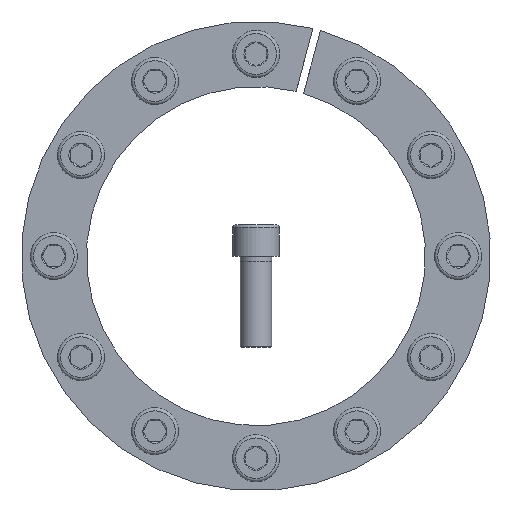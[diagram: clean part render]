
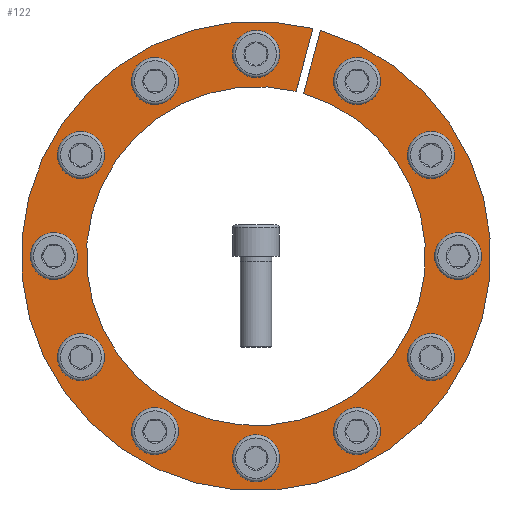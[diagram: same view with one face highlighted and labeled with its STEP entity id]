
A CAD part, front view. The second image highlights one B-rep face of the part: STEP entity #122.
In plain terms, the highlighted planar face has unit normal (0, -1, 0).
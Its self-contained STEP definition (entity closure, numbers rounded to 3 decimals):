
#122 = ADVANCED_FACE( '', ( #289, #290, #291, #292, #293, #294, #295, #296, #297, #298, #299, #300, #301 ), #302, .F. );
#289 = FACE_BOUND( '', #507, .T. );
#290 = FACE_BOUND( '', #508, .T. );
#291 = FACE_BOUND( '', #509, .T. );
#292 = FACE_BOUND( '', #510, .T. );
#293 = FACE_BOUND( '', #511, .T. );
#294 = FACE_BOUND( '', #512, .T. );
#295 = FACE_OUTER_BOUND( '', #513, .T. );
#296 = FACE_BOUND( '', #514, .T. );
#297 = FACE_BOUND( '', #515, .T. );
#298 = FACE_BOUND( '', #516, .T. );
#299 = FACE_BOUND( '', #517, .T. );
#300 = FACE_BOUND( '', #518, .T. );
#301 = FACE_BOUND( '', #519, .T. );
#302 = PLANE( '', #520 );
#507 = EDGE_LOOP( '', ( #826 ) );
#508 = EDGE_LOOP( '', ( #827 ) );
#509 = EDGE_LOOP( '', ( #828 ) );
#510 = EDGE_LOOP( '', ( #829 ) );
#511 = EDGE_LOOP( '', ( #830 ) );
#512 = EDGE_LOOP( '', ( #831 ) );
#513 = EDGE_LOOP( '', ( #832, #833, #834, #835 ) );
#514 = EDGE_LOOP( '', ( #836 ) );
#515 = EDGE_LOOP( '', ( #837 ) );
#516 = EDGE_LOOP( '', ( #838 ) );
#517 = EDGE_LOOP( '', ( #839 ) );
#518 = EDGE_LOOP( '', ( #840 ) );
#519 = EDGE_LOOP( '', ( #841 ) );
#520 = AXIS2_PLACEMENT_3D( '', #842, #843, #844 );
#826 = ORIENTED_EDGE( '', *, *, #1092, .T. );
#827 = ORIENTED_EDGE( '', *, *, #1059, .T. );
#828 = ORIENTED_EDGE( '', *, *, #1097, .T. );
#829 = ORIENTED_EDGE( '', *, *, #1046, .T. );
#830 = ORIENTED_EDGE( '', *, *, #1049, .T. );
#831 = ORIENTED_EDGE( '', *, *, #1041, .T. );
#832 = ORIENTED_EDGE( '', *, *, #1011, .F. );
#833 = ORIENTED_EDGE( '', *, *, #1098, .F. );
#834 = ORIENTED_EDGE( '', *, *, #1035, .T. );
#835 = ORIENTED_EDGE( '', *, *, #1086, .F. );
#836 = ORIENTED_EDGE( '', *, *, #1062, .T. );
#837 = ORIENTED_EDGE( '', *, *, #1099, .T. );
#838 = ORIENTED_EDGE( '', *, *, #1052, .T. );
#839 = ORIENTED_EDGE( '', *, *, #1100, .T. );
#840 = ORIENTED_EDGE( '', *, *, #1084, .T. );
#841 = ORIENTED_EDGE( '', *, *, #1101, .T. );
#842 = CARTESIAN_POINT( '', ( 0., 0., 90. ) );
#843 = DIRECTION( '', ( 0., 1., 0. ) );
#844 = DIRECTION( '', ( 0., 0., 1. ) );
#1011 = EDGE_CURVE( '', #1187, #1189, #1190, .T. );
#1035 = EDGE_CURVE( '', #1232, #1233, #1234, .T. );
#1041 = EDGE_CURVE( '', #1243, #1243, #1244, .T. );
#1046 = EDGE_CURVE( '', #1251, #1251, #1252, .T. );
#1049 = EDGE_CURVE( '', #1256, #1256, #1257, .T. );
#1052 = EDGE_CURVE( '', #1261, #1261, #1262, .T. );
#1059 = EDGE_CURVE( '', #1272, #1272, #1273, .T. );
#1062 = EDGE_CURVE( '', #1277, #1277, #1278, .T. );
#1084 = EDGE_CURVE( '', #1314, #1314, #1315, .T. );
#1086 = EDGE_CURVE( '', #1189, #1233, #1317, .T. );
#1092 = EDGE_CURVE( '', #1325, #1325, #1326, .T. );
#1097 = EDGE_CURVE( '', #1331, #1331, #1332, .T. );
#1098 = EDGE_CURVE( '', #1232, #1187, #1333, .T. );
#1099 = EDGE_CURVE( '', #1334, #1334, #1335, .T. );
#1100 = EDGE_CURVE( '', #1336, #1336, #1337, .T. );
#1101 = EDGE_CURVE( '', #1338, #1338, #1339, .T. );
#1187 = VERTEX_POINT( '', #1514 );
#1189 = VERTEX_POINT( '', #1517 );
#1190 = CIRCLE( '', #1518, 65. );
#1232 = VERTEX_POINT( '', #1565 );
#1233 = VERTEX_POINT( '', #1566 );
#1234 = CIRCLE( '', #1567, 90. );
#1243 = VERTEX_POINT( '', #1578 );
#1244 = CIRCLE( '', #1579, 6. );
#1251 = VERTEX_POINT( '', #1586 );
#1252 = CIRCLE( '', #1587, 6. );
#1256 = VERTEX_POINT( '', #1591 );
#1257 = CIRCLE( '', #1592, 6. );
#1261 = VERTEX_POINT( '', #1596 );
#1262 = CIRCLE( '', #1597, 6. );
#1272 = VERTEX_POINT( '', #1607 );
#1273 = CIRCLE( '', #1608, 6. );
#1277 = VERTEX_POINT( '', #1612 );
#1278 = CIRCLE( '', #1613, 6. );
#1314 = VERTEX_POINT( '', #1657 );
#1315 = CIRCLE( '', #1658, 6. );
#1317 = LINE( '', #1660, #1661 );
#1325 = VERTEX_POINT( '', #1674 );
#1326 = CIRCLE( '', #1675, 6. );
#1331 = VERTEX_POINT( '', #1681 );
#1332 = CIRCLE( '', #1682, 6. );
#1333 = LINE( '', #1683, #1684 );
#1334 = VERTEX_POINT( '', #1685 );
#1335 = CIRCLE( '', #1686, 6. );
#1336 = VERTEX_POINT( '', #1687 );
#1337 = CIRCLE( '', #1688, 6. );
#1338 = VERTEX_POINT( '', #1689 );
#1339 = CIRCLE( '', #1690, 6. );
#1514 = CARTESIAN_POINT( '', ( 15.37, 0., 63.157 ) );
#1517 = CARTESIAN_POINT( '', ( 18.268, 0., 62.38 ) );
#1518 = AXIS2_PLACEMENT_3D( '', #1759, #1760, #1761 );
#1565 = CARTESIAN_POINT( '', ( 21.842, 0., 87.309 ) );
#1566 = CARTESIAN_POINT( '', ( 24.739, 0., 86.533 ) );
#1567 = AXIS2_PLACEMENT_3D( '', #1812, #1813, #1814 );
#1578 = CARTESIAN_POINT( '', ( 6., 0., 77.5 ) );
#1579 = AXIS2_PLACEMENT_3D( '', #1823, #1824, #1825 );
#1586 = CARTESIAN_POINT( '', ( 64.117, 0., -43.946 ) );
#1587 = AXIS2_PLACEMENT_3D( '', #1832, #1833, #1834 );
#1591 = CARTESIAN_POINT( '', ( 70.117, 0., 33.554 ) );
#1592 = AXIS2_PLACEMENT_3D( '', #1838, #1839, #1840 );
#1596 = CARTESIAN_POINT( '', ( 33.554, 0., -70.117 ) );
#1597 = AXIS2_PLACEMENT_3D( '', #1844, #1845, #1846 );
#1607 = CARTESIAN_POINT( '', ( -70.117, 0., -33.554 ) );
#1608 = AXIS2_PLACEMENT_3D( '', #1856, #1857, #1858 );
#1612 = CARTESIAN_POINT( '', ( 43.946, 0., 64.117 ) );
#1613 = AXIS2_PLACEMENT_3D( '', #1862, #1863, #1864 );
#1657 = CARTESIAN_POINT( '', ( -77.5, 0., 6. ) );
#1658 = AXIS2_PLACEMENT_3D( '', #1903, #1904, #1905 );
#1660 = CARTESIAN_POINT( '', ( 18.268, 0., 62.38 ) );
#1661 = VECTOR( '', #1906, 1000. );
#1674 = CARTESIAN_POINT( '', ( -64.117, 0., 43.946 ) );
#1675 = AXIS2_PLACEMENT_3D( '', #1912, #1913, #1914 );
#1681 = CARTESIAN_POINT( '', ( -6., 0., -77.5 ) );
#1682 = AXIS2_PLACEMENT_3D( '', #1916, #1917, #1918 );
#1683 = CARTESIAN_POINT( '', ( 21.845, 0., 87.322 ) );
#1684 = VECTOR( '', #1919, 1000. );
#1685 = CARTESIAN_POINT( '', ( 77.5, 0., -6. ) );
#1686 = AXIS2_PLACEMENT_3D( '', #1920, #1921, #1922 );
#1687 = CARTESIAN_POINT( '', ( -43.946, 0., -64.117 ) );
#1688 = AXIS2_PLACEMENT_3D( '', #1923, #1924, #1925 );
#1689 = CARTESIAN_POINT( '', ( -33.554, 0., 70.117 ) );
#1690 = AXIS2_PLACEMENT_3D( '', #1926, #1927, #1928 );
#1759 = CARTESIAN_POINT( '', ( 0., 0., 0. ) );
#1760 = DIRECTION( '', ( 0., -1., 0. ) );
#1761 = DIRECTION( '', ( 0., 0., -1. ) );
#1812 = CARTESIAN_POINT( '', ( 0., 0., 0. ) );
#1813 = DIRECTION( '', ( 0., -1., 0. ) );
#1814 = DIRECTION( '', ( 0., 0., -1. ) );
#1823 = CARTESIAN_POINT( '', ( 0., 0., 77.5 ) );
#1824 = DIRECTION( '', ( 0., 1., 0. ) );
#1825 = DIRECTION( '', ( 1., 0., 0. ) );
#1832 = CARTESIAN_POINT( '', ( 67.117, 0., -38.75 ) );
#1833 = DIRECTION( '', ( 0., 1., 0. ) );
#1834 = DIRECTION( '', ( -0.5, 0., -0.866 ) );
#1838 = CARTESIAN_POINT( '', ( 67.117, 0., 38.75 ) );
#1839 = DIRECTION( '', ( 0., 1., 0. ) );
#1840 = DIRECTION( '', ( 0.5, 0., -0.866 ) );
#1844 = CARTESIAN_POINT( '', ( 38.75, 0., -67.117 ) );
#1845 = DIRECTION( '', ( 0., 1., 0. ) );
#1846 = DIRECTION( '', ( -0.866, 0., -0.5 ) );
#1856 = CARTESIAN_POINT( '', ( -67.117, 0., -38.75 ) );
#1857 = DIRECTION( '', ( 0., 1., 0. ) );
#1858 = DIRECTION( '', ( -0.5, 0., 0.866 ) );
#1862 = CARTESIAN_POINT( '', ( 38.75, 0., 67.117 ) );
#1863 = DIRECTION( '', ( 0., 1., 0. ) );
#1864 = DIRECTION( '', ( 0.866, 0., -0.5 ) );
#1903 = CARTESIAN_POINT( '', ( -77.5, 0., 0. ) );
#1904 = DIRECTION( '', ( 0., 1., 0. ) );
#1905 = DIRECTION( '', ( 0., 0., 1. ) );
#1906 = DIRECTION( '', ( 0.259, 0., 0.966 ) );
#1912 = CARTESIAN_POINT( '', ( -67.117, 0., 38.75 ) );
#1913 = DIRECTION( '', ( 0., 1., 0. ) );
#1914 = DIRECTION( '', ( 0.5, 0., 0.866 ) );
#1916 = CARTESIAN_POINT( '', ( 0., 0., -77.5 ) );
#1917 = DIRECTION( '', ( 0., 1., 0. ) );
#1918 = DIRECTION( '', ( -1., 0., 0. ) );
#1919 = DIRECTION( '', ( -0.259, 0., -0.966 ) );
#1920 = CARTESIAN_POINT( '', ( 77.5, 0., 0. ) );
#1921 = DIRECTION( '', ( 0., 1., 0. ) );
#1922 = DIRECTION( '', ( 0., 0., -1. ) );
#1923 = CARTESIAN_POINT( '', ( -38.75, 0., -67.117 ) );
#1924 = DIRECTION( '', ( 0., 1., 0. ) );
#1925 = DIRECTION( '', ( -0.866, 0., 0.5 ) );
#1926 = CARTESIAN_POINT( '', ( -38.75, 0., 67.117 ) );
#1927 = DIRECTION( '', ( 0., 1., 0. ) );
#1928 = DIRECTION( '', ( 0.866, 0., 0.5 ) );
